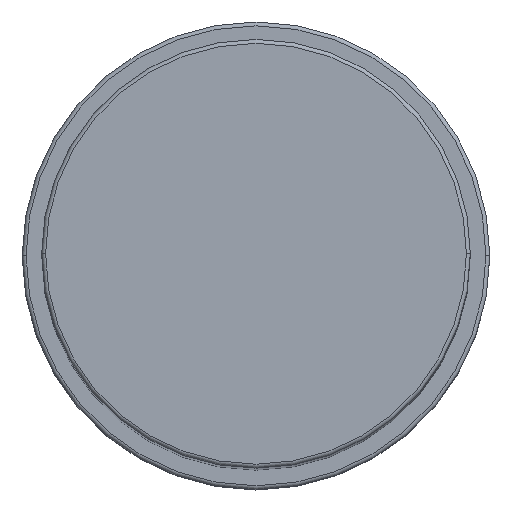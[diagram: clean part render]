
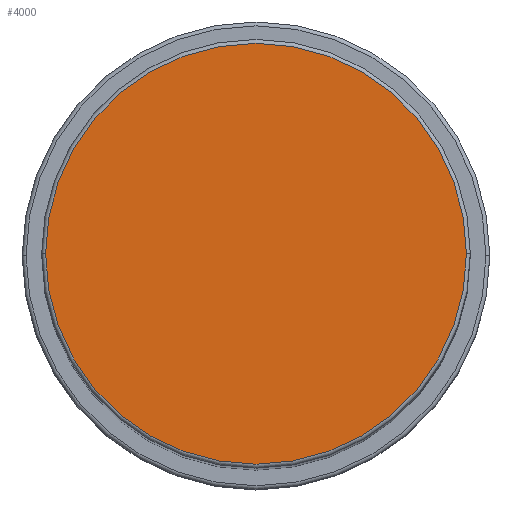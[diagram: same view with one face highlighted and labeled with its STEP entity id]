
A CAD part, top view. The second image highlights one B-rep face of the part: STEP entity #4000.
In plain terms, the highlighted planar face has unit normal (0, 0, 1).
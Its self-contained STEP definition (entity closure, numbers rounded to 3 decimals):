
#678 = DIRECTION ( 'NONE',  ( 1., 0., 0. ) ) ;
#760 = EDGE_LOOP ( 'NONE', ( #2361, #3529 ) ) ;
#924 = PLANE ( 'NONE',  #2839 ) ;
#1219 = AXIS2_PLACEMENT_3D ( 'NONE', #3660, #3723, #678 ) ;
#1315 = DIRECTION ( 'NONE',  ( 0., 0., 1. ) ) ;
#1359 = DIRECTION ( 'NONE',  ( 1., 0., 0. ) ) ;
#1657 = FACE_OUTER_BOUND ( 'NONE', #760, .T. ) ;
#1706 = DIRECTION ( 'NONE',  ( 1., 0., 0. ) ) ;
#2113 = VERTEX_POINT ( 'NONE', #2844 ) ;
#2361 = ORIENTED_EDGE ( 'NONE', *, *, #4554, .T. ) ;
#2839 = AXIS2_PLACEMENT_3D ( 'NONE', #3591, #1315, #1706 ) ;
#2844 = CARTESIAN_POINT ( 'NONE',  ( -27., 0., 163. ) ) ;
#3013 = CIRCLE ( 'NONE', #1219, 27. ) ;
#3141 = CARTESIAN_POINT ( 'NONE',  ( 27., 0., 163. ) ) ;
#3488 = AXIS2_PLACEMENT_3D ( 'NONE', #4821, #3595, #1359 ) ;
#3529 = ORIENTED_EDGE ( 'NONE', *, *, #4025, .T. ) ;
#3591 = CARTESIAN_POINT ( 'NONE',  ( 0., 0., 163. ) ) ;
#3595 = DIRECTION ( 'NONE',  ( 0., 0., 1. ) ) ;
#3660 = CARTESIAN_POINT ( 'NONE',  ( 0., 0., 163. ) ) ;
#3723 = DIRECTION ( 'NONE',  ( 0., 0., 1. ) ) ;
#4000 = ADVANCED_FACE ( 'NONE', ( #1657 ), #924, .T. ) ;
#4025 = EDGE_CURVE ( 'NONE', #2113, #4564, #3013, .T. ) ;
#4554 = EDGE_CURVE ( 'NONE', #4564, #2113, #4889, .T. ) ;
#4564 = VERTEX_POINT ( 'NONE', #3141 ) ;
#4821 = CARTESIAN_POINT ( 'NONE',  ( 0., 0., 163. ) ) ;
#4889 = CIRCLE ( 'NONE', #3488, 27. ) ;
